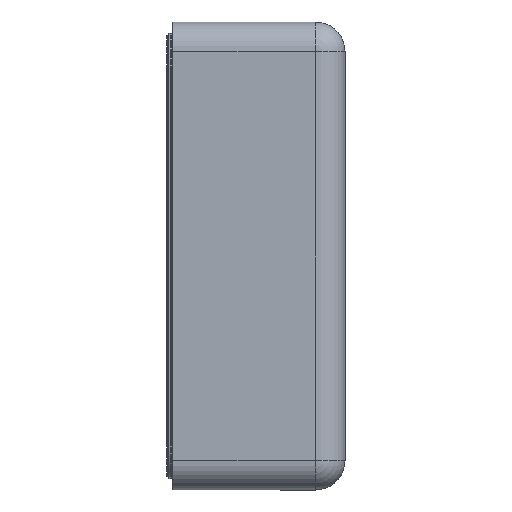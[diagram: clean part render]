
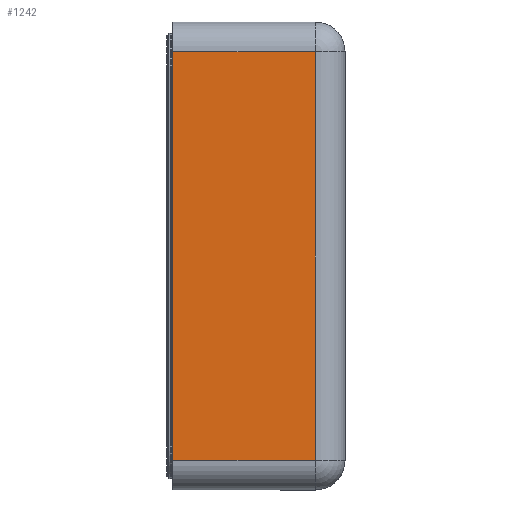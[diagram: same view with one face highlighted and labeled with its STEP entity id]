
A CAD part, left-side view. The second image highlights one B-rep face of the part: STEP entity #1242.
In plain terms, the highlighted planar face has unit normal (-1, 0, 0).
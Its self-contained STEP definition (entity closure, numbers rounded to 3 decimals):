
#1242 = ADVANCED_FACE ( 'NONE', ( #104729 ), #54728, .F. ) ;
#3930 = CARTESIAN_POINT ( 'NONE',  ( -23., -5.8, -8.3 ) ) ;
#5420 = ORIENTED_EDGE ( 'NONE', *, *, #148701, .T. ) ;
#6260 = EDGE_CURVE ( 'NONE', #52245, #81329, #84234, .T. ) ;
#8140 = EDGE_CURVE ( 'NONE', #80756, #81329, #38086, .T. ) ;
#10320 = EDGE_CURVE ( 'NONE', #52245, #34026, #15200, .T. ) ;
#12717 = VECTOR ( 'NONE', #67700, 39.37 ) ;
#13407 = EDGE_LOOP ( 'NONE', ( #62692, #58542, #5420, #158526 ) ) ;
#15200 = LINE ( 'NONE', #68613, #41812 ) ;
#34026 = VERTEX_POINT ( 'NONE', #130677 ) ;
#38086 = LINE ( 'NONE', #116974, #89147 ) ;
#41812 = VECTOR ( 'NONE', #122105, 39.37 ) ;
#44791 = CARTESIAN_POINT ( 'NONE',  ( -23., 0.3, 8.3 ) ) ;
#52245 = VERTEX_POINT ( 'NONE', #118121 ) ;
#54728 = PLANE ( 'NONE',  #76892 ) ;
#58542 = ORIENTED_EDGE ( 'NONE', *, *, #10320, .T. ) ;
#62692 = ORIENTED_EDGE ( 'NONE', *, *, #6260, .F. ) ;
#67700 = DIRECTION ( 'NONE',  ( 0., -1., 0. ) ) ;
#68613 = CARTESIAN_POINT ( 'NONE',  ( -23., 0., 8.3 ) ) ;
#76892 = AXIS2_PLACEMENT_3D ( 'NONE', #105582, #92424, #134461 ) ;
#80756 = VERTEX_POINT ( 'NONE', #3930 ) ;
#81329 = VERTEX_POINT ( 'NONE', #157590 ) ;
#84234 = LINE ( 'NONE', #44791, #118301 ) ;
#89147 = VECTOR ( 'NONE', #168720, 39.37 ) ;
#92424 = DIRECTION ( 'NONE',  ( 1., 0., 0. ) ) ;
#104729 = FACE_OUTER_BOUND ( 'NONE', #13407, .T. ) ;
#105582 = CARTESIAN_POINT ( 'NONE',  ( -23., 0.3, 8.3 ) ) ;
#116974 = CARTESIAN_POINT ( 'NONE',  ( -23., -5.8, 8.3 ) ) ;
#118121 = CARTESIAN_POINT ( 'NONE',  ( -23., 0., 8.3 ) ) ;
#118301 = VECTOR ( 'NONE', #123725, 39.37 ) ;
#122105 = DIRECTION ( 'NONE',  ( 0., 0., -1. ) ) ;
#123725 = DIRECTION ( 'NONE',  ( 0., -1., 0. ) ) ;
#130677 = CARTESIAN_POINT ( 'NONE',  ( -23., 0., -8.3 ) ) ;
#131708 = LINE ( 'NONE', #148315, #12717 ) ;
#134461 = DIRECTION ( 'NONE',  ( 0., 0., -1. ) ) ;
#148315 = CARTESIAN_POINT ( 'NONE',  ( -23., 0.3, -8.3 ) ) ;
#148701 = EDGE_CURVE ( 'NONE', #34026, #80756, #131708, .T. ) ;
#157590 = CARTESIAN_POINT ( 'NONE',  ( -23., -5.8, 8.3 ) ) ;
#158526 = ORIENTED_EDGE ( 'NONE', *, *, #8140, .T. ) ;
#168720 = DIRECTION ( 'NONE',  ( 0., 0., 1. ) ) ;
